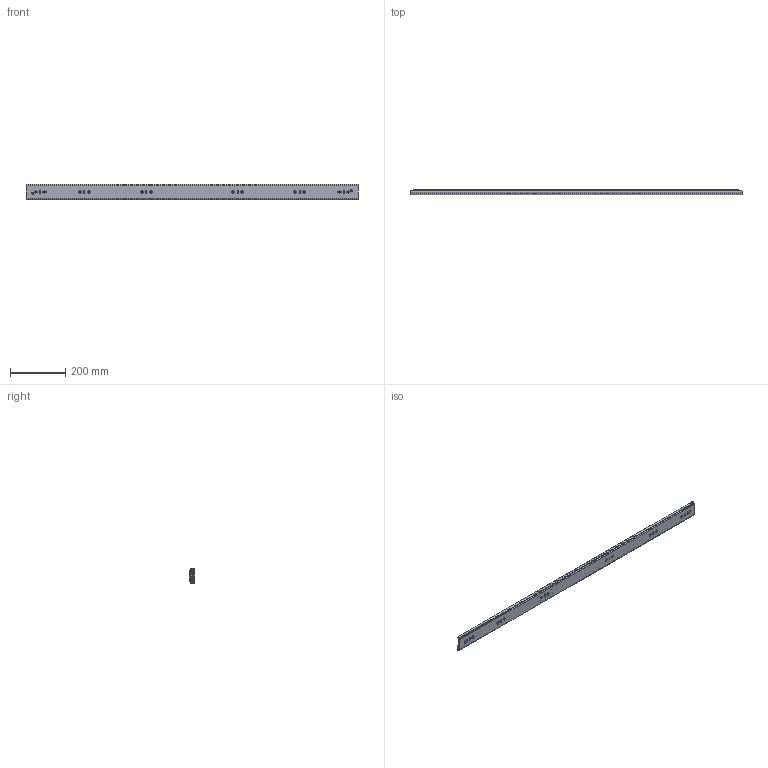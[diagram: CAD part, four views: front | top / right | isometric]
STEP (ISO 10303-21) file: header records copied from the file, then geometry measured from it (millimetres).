
FILE_DESCRIPTION((''),'2;1');
FILE_NAME('1057-C-48_ASM','2025-10-24T',('蔽翩'),(''),'CREO PARAMETRIC BY PTC INC, 2018220','CREO PARAMETRIC BY PTC INC, 2018220','');
FILE_SCHEMA(('CONFIG_CONTROL_DESIGN'));
Products named in the file (21): KP-57-01WEIKE-31____________; MAODING-WAI____________; 1057DAZHUJIA-20GE1____________; 1057ZHUJIADANWEIJIAO123________; 1057-5-6GANZHU1____________; 1057DAZHUJIA-20GE_12____ASM; 1057-C-20-KE_____________ASM; KP-57-01ZHONGGUI-36____; PEIJIAN-22____________; ZHUANJIAO112____________; LIUJIAO-DING11____________; MAODING-P____________; 1057-XIAOJIAOLUN48; PEIJIAN-ZHONG_____________ASM; 1057XIAOZHUJIA___2011; 1057XIAOZHUJIA-20GE11_ASM; KP-57-01ZHONGGUI-36_____ASM; KP-57-01NEIGUI-241____________; XIN-JIAOGUAN48; KP-57-01NEIGUI-241_____________ASM; 1057-C-48_ASM
Assembly tree (195 placements, depth 4):
  1057-C-48_ASM
    1057-C-20-KE_____________ASM
      KP-57-01WEIKE-31____________
      MAODING-WAI____________  x2
      1057DAZHUJIA-20GE_12____ASM
        1057DAZHUJIA-20GE1____________
        1057ZHUJIADANWEIJIAO123________  x2
        1057-5-6GANZHU1____________  x84
    KP-57-01ZHONGGUI-36_____ASM
      KP-57-01ZHONGGUI-36____
      PEIJIAN-ZHONG_____________ASM  x2
        PEIJIAN-22____________
        ZHUANJIAO112____________
        LIUJIAO-DING11____________
        MAODING-P____________
        1057-XIAOJIAOLUN48
      MAODING-WAI____________  x2
      1057XIAOZHUJIA-20GE11_ASM
        1057XIAOZHUJIA___2011
        1057-5-6GANZHU1____________  x84
        1057ZHUJIADANWEIJIAO123________  x2
    KP-57-01NEIGUI-241_____________ASM
      KP-57-01NEIGUI-241____________
      XIN-JIAOGUAN48  x2
Bounding box: 1200 x 19.8 x 57.67 mm (x, y, z)
Volume: 517178.2 mm3; surface area: 604089.3 mm2
Topology: 193 solids, 193 shells, 4846 faces, 13486 edges, 8348 vertices
Faces by surface type: plane 2166, cylinder 1982, sphere 342, bspline 138, cone 114, torus 96, extrusion 8
Entity records: 139709 total; most frequent: CARTESIAN_POINT 29199, DIRECTION 23520, ORIENTED_EDGE 22902, EDGE_CURVE 11451, AXIS2_PLACEMENT_3D 8116, VERTEX_POINT 7370, VECTOR 7288, LINE 7284
